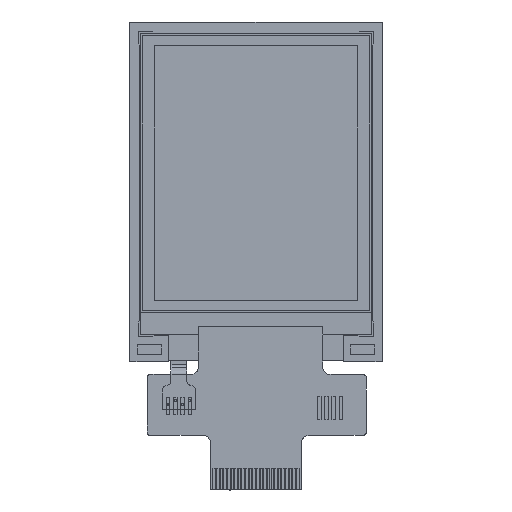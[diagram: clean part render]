
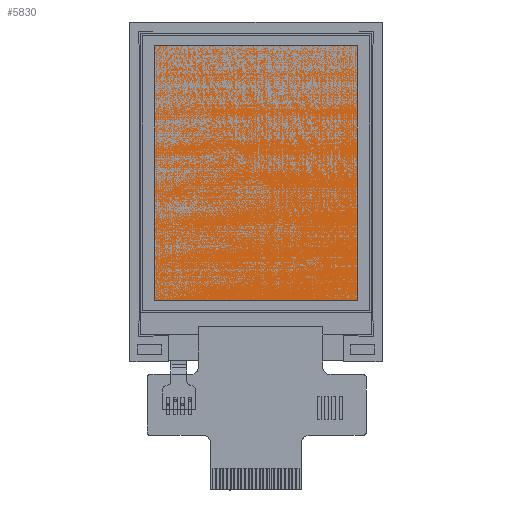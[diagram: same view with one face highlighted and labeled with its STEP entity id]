
A CAD part, top view. The second image highlights one B-rep face of the part: STEP entity #5830.
In plain terms, the highlighted planar face has unit normal (0, 0, 1).
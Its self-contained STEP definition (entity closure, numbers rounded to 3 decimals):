
#422 = DIRECTION ( 'NONE',  ( 0., 0., -1. ) ) ;
#895 = DIRECTION ( 'NONE',  ( 0., -1., 0. ) ) ;
#1093 = LINE ( 'NONE', #4232, #5663 ) ;
#1142 = VECTOR ( 'NONE', #7705, 1000. ) ;
#1175 = CARTESIAN_POINT ( 'NONE',  ( 8359.09, -686.868, -0.04 ) ) ;
#1709 = CARTESIAN_POINT ( 'NONE',  ( 8331.058, -686.868, -0.04 ) ) ;
#2349 = EDGE_CURVE ( 'NONE', #4291, #3077, #5577, .T. ) ;
#3077 = VERTEX_POINT ( 'NONE', #1175 ) ;
#3880 = AXIS2_PLACEMENT_3D ( 'NONE', #6689, #422, #9865 ) ;
#4090 = CARTESIAN_POINT ( 'NONE',  ( 8331.058, -651.828, -0.04 ) ) ;
#4232 = CARTESIAN_POINT ( 'NONE',  ( 8331.058, -651.828, -0.04 ) ) ;
#4267 = CARTESIAN_POINT ( 'NONE',  ( 8331.058, -686.868, -0.04 ) ) ;
#4291 = VERTEX_POINT ( 'NONE', #7119 ) ;
#4593 = EDGE_CURVE ( 'NONE', #9646, #6875, #1093, .T. ) ;
#5188 = FACE_OUTER_BOUND ( 'NONE', #7731, .T. ) ;
#5354 = CARTESIAN_POINT ( 'NONE',  ( 8359.09, -651.828, -0.04 ) ) ;
#5577 = LINE ( 'NONE', #7759, #7878 ) ;
#5663 = VECTOR ( 'NONE', #9464, 1000. ) ;
#5830 = ADVANCED_FACE ( 'NONE', ( #5188 ), #6637, .F. ) ;
#6247 = ORIENTED_EDGE ( 'NONE', *, *, #9171, .F. ) ;
#6634 = ORIENTED_EDGE ( 'NONE', *, *, #2349, .F. ) ;
#6637 = PLANE ( 'NONE',  #3880 ) ;
#6689 = CARTESIAN_POINT ( 'NONE',  ( 8345.074, -686.868, -0.04 ) ) ;
#6875 = VERTEX_POINT ( 'NONE', #4090 ) ;
#7037 = VECTOR ( 'NONE', #8012, 1000. ) ;
#7119 = CARTESIAN_POINT ( 'NONE',  ( 8359.09, -651.828, -0.04 ) ) ;
#7705 = DIRECTION ( 'NONE',  ( 1., 0., 0. ) ) ;
#7731 = EDGE_LOOP ( 'NONE', ( #6634, #9163, #8188, #6247 ) ) ;
#7759 = CARTESIAN_POINT ( 'NONE',  ( 8359.09, -686.868, -0.04 ) ) ;
#7878 = VECTOR ( 'NONE', #895, 1000. ) ;
#8012 = DIRECTION ( 'NONE',  ( -1., 0., 0. ) ) ;
#8188 = ORIENTED_EDGE ( 'NONE', *, *, #4593, .F. ) ;
#8791 = LINE ( 'NONE', #1709, #7037 ) ;
#9111 = EDGE_CURVE ( 'NONE', #6875, #4291, #9212, .T. ) ;
#9163 = ORIENTED_EDGE ( 'NONE', *, *, #9111, .F. ) ;
#9171 = EDGE_CURVE ( 'NONE', #3077, #9646, #8791, .T. ) ;
#9212 = LINE ( 'NONE', #5354, #1142 ) ;
#9464 = DIRECTION ( 'NONE',  ( 0., 1., 0. ) ) ;
#9646 = VERTEX_POINT ( 'NONE', #4267 ) ;
#9865 = DIRECTION ( 'NONE',  ( -1., 0., 0. ) ) ;
